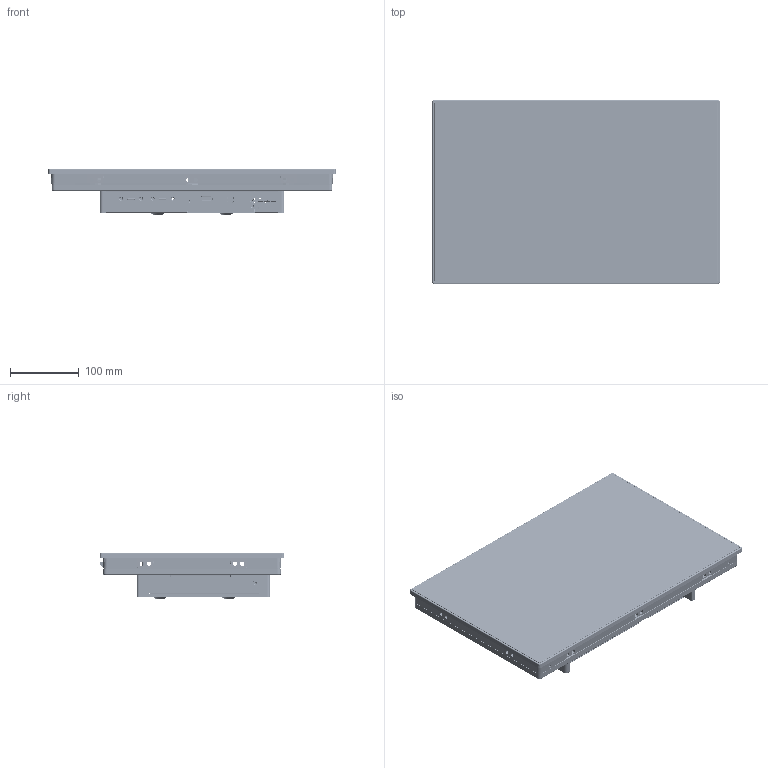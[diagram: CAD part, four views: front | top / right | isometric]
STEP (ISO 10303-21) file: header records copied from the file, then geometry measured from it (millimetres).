
FILE_DESCRIPTION (( 'STEP AP214' ), '1' );
FILE_NAME ('DR0015.STEP', '2017-08-10T09:26:41', ( '' ), ( '' ), 'SwSTEP 2.0', 'SolidWorks 2016', '' );
FILE_SCHEMA (( 'AUTOMOTIVE_DESIGN' ));
Length unit declared in the file: millimetre
Products named in the file (54): 0_Panel Module for BOR; 1930005857-01 SP-S M4x7.8L Ball; Cover Rear W15 for BOR; 0_DR0000 Box for BOR; 1990021725T000_Snap hook_left for TPC-1840WT_2140WT; Adhesive W15-TP for BOR; Cover Top for BOR-DR0000; Rubber Waterproof W15 for BOR; Adhesive W15-TP R-L for BOR; Bracket Vesa for BOR-DR0000; Front Bezel W15 for BOR; Master Adhesive W15-TP for BOR; Asm Chassis for BOR-DR0000; FPM-D12T-PANEL PCB-ASSY; 1930005836-01 S-S M3x4L NK Black; DR0015; ERF8-040-07.0-L-DV-K-TR; Guide Module for BOR-DR0000; FPM-D12T-MYLAR-PANEL PCB; Protection R for BOR-DR0000; 1655004163_默_; Protection L for BOR-DR0000; DP Module; 1655002643_默_; Cover Side for BOR-DR0000; 1930007503-01 M2.0x4L S-S D=3.80 BZn NK_默_; 1655003123; Cover IO for BOR-DR0000; 1655002642_默_; Chassis for BOR-DR0000; 1930006770-01 F-S M2.5x4L NK_默_; 1655905100_默_; 0_Placement DR0000; PCB DP; 1655004131_默_; USB Host; 1654006275_默_; FPM-D12T-PCB-PANEL; PCB DR0000; 1654000513-11_默_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
Assembly tree (81 placements, depth 6):
  DR0015
    0_Panel Module for BOR
      0_W15H Panel for BOR
        W15 Front Module
          Front Bezel W15 for BOR
          Rubber Waterproof W15 for BOR
          Easy-Installation-Left
            1990021725T000_Snap hook_left for TPC-1840WT_2140WT
            1930005857-01 SP-S M4x7.8L Ball
          Easy-Installation-Right
            1990021724T000_Snap hook_right for TPC-1840WT_2140WT
            1930005857-01 SP-S M4x7.8L Ball
        TP-15W AMT for BOR
        FPM-D12T-PANEL PCB-ASSY
          FPM-D12T-PCB-PANEL
          1655004131_默_  x4
          1655905100_默_
          1655002642_默_
          1655003123
          1655002643_默_
          1655004163_默_
          FPM-D12T-MYLAR-PANEL PCB
          ERF8-040-07.0-L-DV-K-TR
        Adhesive W15-TP for BOR
          Master Adhesive W15-TP for BOR
          Adhesive W15-TP R-L for BOR
        Cover Rear W15 for BOR
      0_DR0000 Box for BOR
        0_Placement DR0000
          PCB DR0000
            PCB DR0000
            1652003104_默_
            1654012860-01_默_
            1654011506-01_默_
          USB Host  x2
        Asm Chassis for BOR-DR0000
          Chassis for BOR-DR0000
          Cover IO for BOR-DR0000
          Cover Side for BOR-DR0000
          Protection L for BOR-DR0000
          Protection R for BOR-DR0000
          Guide Module for BOR-DR0000  x2
          1930005836-01 S-S M3x4L NK Black  x20
        Bracket Vesa for BOR-DR0000
        Cover Top for BOR-DR0000
    DP Module
      Chassis DP for BOR-DR0000
      Cover Top Module for BOR-DR0000
      PCB DP
        PCB DP
        1654012827-01_默_
        1654000513-11_默_
        1654006275_默_
      1930006770-01 F-S M2.5x4L NK_默_
      1930007503-01 M2.0x4L S-S D=3.80 BZn NK_默_  x2
      1930005836-01 S-S M3x4L NK Black  x2
Bounding box: 419.7 x 269 x 68.5 mm (x, y, z)
Volume: 913623.4 mm3; surface area: 1172374.5 mm2
Topology: 110 solids, 112 shells, 16750 faces, 46584 edges, 30696 vertices
Faces by surface type: plane 11384, cylinder 3556, bspline 1334, cone 320, torus 125, sphere 31
Entity records: 641219 total; most frequent: CARTESIAN_POINT 168225, ORIENTED_EDGE 87848, DIRECTION 73403, EDGE_CURVE 43924, LINE 33249, VECTOR 33249, VERTEX_POINT 29030, AXIS2_PLACEMENT_3D 20077
